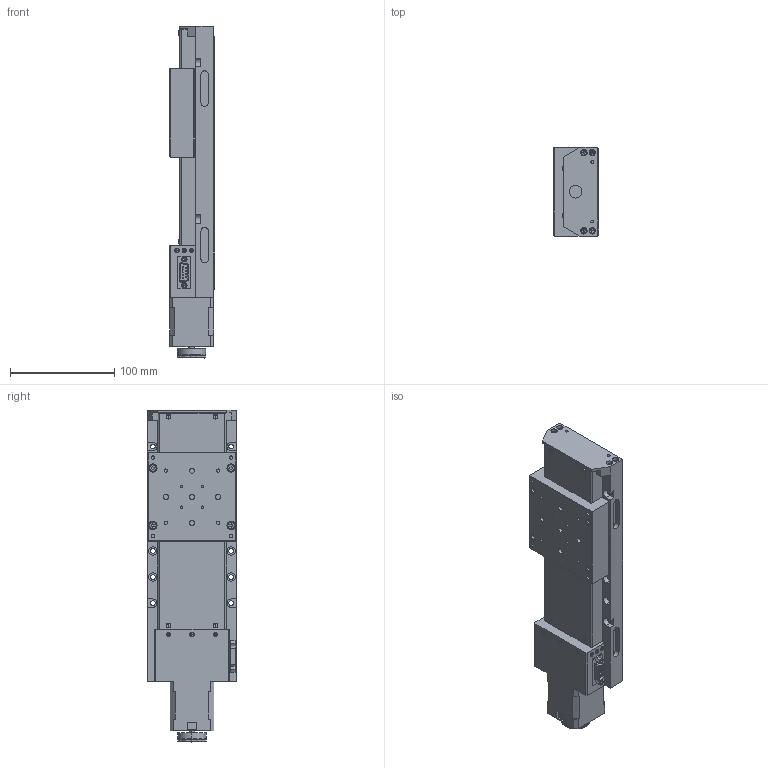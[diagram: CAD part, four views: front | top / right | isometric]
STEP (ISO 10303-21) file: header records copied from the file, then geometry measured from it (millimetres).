
FILE_DESCRIPTION (( 'STEP AP203' ), '1' );
FILE_NAME ('8MT200-100.STEP', '2008-04-14T13:33:50', ( 'STANDA' ), ( '' ), 'SwSTEP 2.0', 'SolidWorks 2003240', '' );
FILE_SCHEMA (( 'CONFIG_CONTROL_DESIGN' ));
Products named in the file (1): 8MT200-100
Bounding box: 43.2 x 85 x 318 mm (x, y, z)
Volume: 855444.2 mm3; surface area: 109358.5 mm2
Topology: 1 solids, 21 shells, 2015 faces, 5315 edges, 3416 vertices
Faces by surface type: plane 931, cylinder 763, cone 177, bspline 144
Entity records: 66882 total; most frequent: CARTESIAN_POINT 18120, ORIENTED_EDGE 10454, DIRECTION 9944, EDGE_CURVE 5227, AXIS2_PLACEMENT_3D 3750, VERTEX_POINT 3416, LINE 2444, VECTOR 2444
